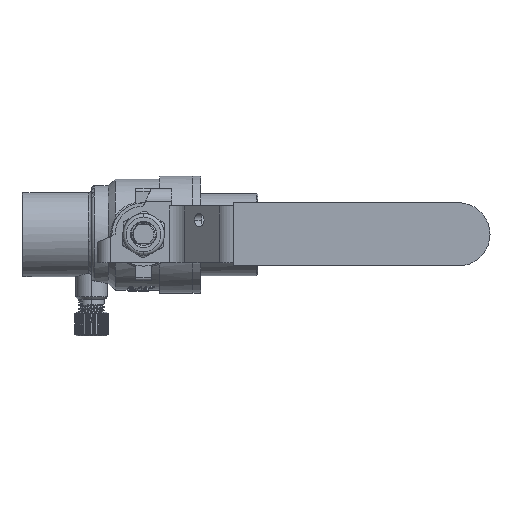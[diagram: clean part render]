
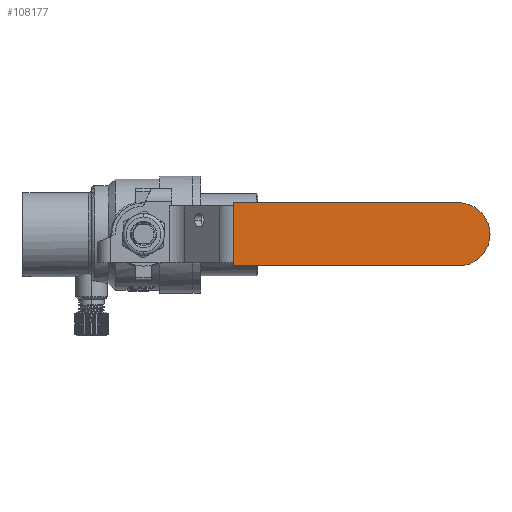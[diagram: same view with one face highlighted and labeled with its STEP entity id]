
A CAD part, top view. The second image highlights one B-rep face of the part: STEP entity #108177.
In plain terms, the highlighted planar face has unit normal (0, 0, 1).
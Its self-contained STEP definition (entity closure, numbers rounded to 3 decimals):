
#105614 = PLANE('',#105615);
#105615 = AXIS2_PLACEMENT_3D('',#105616,#105617,#105618);
#105616 = CARTESIAN_POINT('',(28.314,-21.15,65.359));
#105617 = DIRECTION('',(1.,0.,0.));
#105618 = DIRECTION('',(0.,1.,0.));
#107947 = VERTEX_POINT('',#107948);
#107948 = CARTESIAN_POINT('',(28.314,-1.15,65.359));
#107964 = PLANE('',#107965);
#107965 = AXIS2_PLACEMENT_3D('',#107966,#107967,#107968);
#107966 = CARTESIAN_POINT('',(0.,-1.15,46.359));
#107967 = DIRECTION('',(0.,-1.,0.));
#107968 = DIRECTION('',(1.,0.,0.));
#108005 = VERTEX_POINT('',#108006);
#108006 = CARTESIAN_POINT('',(28.314,-21.15,65.359));
#108020 = PLANE('',#108021);
#108021 = AXIS2_PLACEMENT_3D('',#108022,#108023,#108024);
#108022 = CARTESIAN_POINT('',(0.,-21.15,46.359));
#108023 = DIRECTION('',(0.,-1.,0.));
#108024 = DIRECTION('',(1.,0.,0.));
#108032 = EDGE_CURVE('',#108005,#107947,#108033,.T.);
#108033 = SURFACE_CURVE('',#108034,(#108038,#108045),.PCURVE_S1.);
#108034 = LINE('',#108035,#108036);
#108035 = CARTESIAN_POINT('',(28.314,-21.15,65.359));
#108036 = VECTOR('',#108037,1.);
#108037 = DIRECTION('',(0.,1.,0.));
#108038 = PCURVE('',#105614,#108039);
#108039 = DEFINITIONAL_REPRESENTATION('',(#108040),#108044);
#108040 = LINE('',#108041,#108042);
#108041 = CARTESIAN_POINT('',(0.,0.));
#108042 = VECTOR('',#108043,1.);
#108043 = DIRECTION('',(1.,0.));
#108044 = ( GEOMETRIC_REPRESENTATION_CONTEXT(2) 
PARAMETRIC_REPRESENTATION_CONTEXT() REPRESENTATION_CONTEXT('2D SPACE',''
  ) );
#108045 = PCURVE('',#108046,#108051);
#108046 = PLANE('',#108047);
#108047 = AXIS2_PLACEMENT_3D('',#108048,#108049,#108050);
#108048 = CARTESIAN_POINT('',(28.314,-21.15,65.359));
#108049 = DIRECTION('',(0.,0.,-1.));
#108050 = DIRECTION('',(0.,1.,0.));
#108051 = DEFINITIONAL_REPRESENTATION('',(#108052),#108056);
#108052 = LINE('',#108053,#108054);
#108053 = CARTESIAN_POINT('',(0.,0.));
#108054 = VECTOR('',#108055,1.);
#108055 = DIRECTION('',(1.,0.));
#108056 = ( GEOMETRIC_REPRESENTATION_CONTEXT(2) 
PARAMETRIC_REPRESENTATION_CONTEXT() REPRESENTATION_CONTEXT('2D SPACE',''
  ) );
#108111 = CYLINDRICAL_SURFACE('',#108112,10.);
#108112 = AXIS2_PLACEMENT_3D('',#108113,#108114,#108115);
#108113 = CARTESIAN_POINT('',(99.5,-11.15,65.359));
#108114 = DIRECTION('',(0.,0.,1.));
#108115 = DIRECTION('',(0.,-1.,0.));
#108144 = CYLINDRICAL_SURFACE('',#108145,10.);
#108145 = AXIS2_PLACEMENT_3D('',#108146,#108147,#108148);
#108146 = CARTESIAN_POINT('',(99.5,-11.15,46.359));
#108147 = DIRECTION('',(0.,0.,-1.));
#108148 = DIRECTION('',(0.,1.,0.));
#108177 = ADVANCED_FACE('',(#108178),#108046,.F.);
#108178 = FACE_BOUND('',#108179,.T.);
#108179 = EDGE_LOOP('',(#108180,#108210,#108238,#108259,#108260));
#108180 = ORIENTED_EDGE('',*,*,#108181,.T.);
#108181 = EDGE_CURVE('',#108182,#108184,#108186,.T.);
#108182 = VERTEX_POINT('',#108183);
#108183 = CARTESIAN_POINT('',(99.5,-21.15,65.359));
#108184 = VERTEX_POINT('',#108185);
#108185 = CARTESIAN_POINT('',(109.5,-11.15,65.359));
#108186 = SURFACE_CURVE('',#108187,(#108192,#108203),.PCURVE_S1.);
#108187 = CIRCLE('',#108188,10.);
#108188 = AXIS2_PLACEMENT_3D('',#108189,#108190,#108191);
#108189 = CARTESIAN_POINT('',(99.5,-11.15,65.359));
#108190 = DIRECTION('',(0.,0.,1.));
#108191 = DIRECTION('',(0.,1.,0.));
#108192 = PCURVE('',#108046,#108193);
#108193 = DEFINITIONAL_REPRESENTATION('',(#108194),#108202);
#108194 = ( BOUNDED_CURVE() B_SPLINE_CURVE(2,(#108195,#108196,#108197,
    #108198,#108199,#108200,#108201),.UNSPECIFIED.,.T.,.F.) 
B_SPLINE_CURVE_WITH_KNOTS((1,2,2,2,2,1),(-2.094,0.,
    2.094,4.189,6.283,8.378),
.UNSPECIFIED.) CURVE() GEOMETRIC_REPRESENTATION_ITEM() 
RATIONAL_B_SPLINE_CURVE((1.,0.5,1.,0.5,1.,0.5,1.)) REPRESENTATION_ITEM(
  '') );
#108195 = CARTESIAN_POINT('',(20.,71.186));
#108196 = CARTESIAN_POINT('',(20.,53.866));
#108197 = CARTESIAN_POINT('',(5.,62.526));
#108198 = CARTESIAN_POINT('',(-10.,71.186));
#108199 = CARTESIAN_POINT('',(5.,79.847));
#108200 = CARTESIAN_POINT('',(20.,88.507));
#108201 = CARTESIAN_POINT('',(20.,71.186));
#108202 = ( GEOMETRIC_REPRESENTATION_CONTEXT(2) 
PARAMETRIC_REPRESENTATION_CONTEXT() REPRESENTATION_CONTEXT('2D SPACE',''
  ) );
#108203 = PCURVE('',#108144,#108204);
#108204 = DEFINITIONAL_REPRESENTATION('',(#108205),#108209);
#108205 = LINE('',#108206,#108207);
#108206 = CARTESIAN_POINT('',(6.283,-19.));
#108207 = VECTOR('',#108208,1.);
#108208 = DIRECTION('',(-1.,0.));
#108209 = ( GEOMETRIC_REPRESENTATION_CONTEXT(2) 
PARAMETRIC_REPRESENTATION_CONTEXT() REPRESENTATION_CONTEXT('2D SPACE',''
  ) );
#108210 = ORIENTED_EDGE('',*,*,#108211,.T.);
#108211 = EDGE_CURVE('',#108184,#108212,#108214,.T.);
#108212 = VERTEX_POINT('',#108213);
#108213 = CARTESIAN_POINT('',(99.5,-1.15,65.359));
#108214 = SURFACE_CURVE('',#108215,(#108220,#108231),.PCURVE_S1.);
#108215 = CIRCLE('',#108216,10.);
#108216 = AXIS2_PLACEMENT_3D('',#108217,#108218,#108219);
#108217 = CARTESIAN_POINT('',(99.5,-11.15,65.359));
#108218 = DIRECTION('',(0.,0.,1.));
#108219 = DIRECTION('',(0.,1.,0.));
#108220 = PCURVE('',#108046,#108221);
#108221 = DEFINITIONAL_REPRESENTATION('',(#108222),#108230);
#108222 = ( BOUNDED_CURVE() B_SPLINE_CURVE(2,(#108223,#108224,#108225,
    #108226,#108227,#108228,#108229),.UNSPECIFIED.,.T.,.F.) 
B_SPLINE_CURVE_WITH_KNOTS((1,2,2,2,2,1),(-2.094,0.,
    2.094,4.189,6.283,8.378),
.UNSPECIFIED.) CURVE() GEOMETRIC_REPRESENTATION_ITEM() 
RATIONAL_B_SPLINE_CURVE((1.,0.5,1.,0.5,1.,0.5,1.)) REPRESENTATION_ITEM(
  '') );
#108223 = CARTESIAN_POINT('',(20.,71.186));
#108224 = CARTESIAN_POINT('',(20.,53.866));
#108225 = CARTESIAN_POINT('',(5.,62.526));
#108226 = CARTESIAN_POINT('',(-10.,71.186));
#108227 = CARTESIAN_POINT('',(5.,79.847));
#108228 = CARTESIAN_POINT('',(20.,88.507));
#108229 = CARTESIAN_POINT('',(20.,71.186));
#108230 = ( GEOMETRIC_REPRESENTATION_CONTEXT(2) 
PARAMETRIC_REPRESENTATION_CONTEXT() REPRESENTATION_CONTEXT('2D SPACE',''
  ) );
#108231 = PCURVE('',#108111,#108232);
#108232 = DEFINITIONAL_REPRESENTATION('',(#108233),#108237);
#108233 = LINE('',#108234,#108235);
#108234 = CARTESIAN_POINT('',(-3.142,0.));
#108235 = VECTOR('',#108236,1.);
#108236 = DIRECTION('',(1.,0.));
#108237 = ( GEOMETRIC_REPRESENTATION_CONTEXT(2) 
PARAMETRIC_REPRESENTATION_CONTEXT() REPRESENTATION_CONTEXT('2D SPACE',''
  ) );
#108238 = ORIENTED_EDGE('',*,*,#108239,.T.);
#108239 = EDGE_CURVE('',#108212,#107947,#108240,.T.);
#108240 = SURFACE_CURVE('',#108241,(#108245,#108252),.PCURVE_S1.);
#108241 = LINE('',#108242,#108243);
#108242 = CARTESIAN_POINT('',(28.314,-1.15,65.359));
#108243 = VECTOR('',#108244,1.);
#108244 = DIRECTION('',(-1.,0.,0.));
#108245 = PCURVE('',#108046,#108246);
#108246 = DEFINITIONAL_REPRESENTATION('',(#108247),#108251);
#108247 = LINE('',#108248,#108249);
#108248 = CARTESIAN_POINT('',(20.,0.));
#108249 = VECTOR('',#108250,1.);
#108250 = DIRECTION('',(0.,-1.));
#108251 = ( GEOMETRIC_REPRESENTATION_CONTEXT(2) 
PARAMETRIC_REPRESENTATION_CONTEXT() REPRESENTATION_CONTEXT('2D SPACE',''
  ) );
#108252 = PCURVE('',#107964,#108253);
#108253 = DEFINITIONAL_REPRESENTATION('',(#108254),#108258);
#108254 = LINE('',#108255,#108256);
#108255 = CARTESIAN_POINT('',(28.314,19.));
#108256 = VECTOR('',#108257,1.);
#108257 = DIRECTION('',(-1.,0.));
#108258 = ( GEOMETRIC_REPRESENTATION_CONTEXT(2) 
PARAMETRIC_REPRESENTATION_CONTEXT() REPRESENTATION_CONTEXT('2D SPACE',''
  ) );
#108259 = ORIENTED_EDGE('',*,*,#108032,.F.);
#108260 = ORIENTED_EDGE('',*,*,#108261,.F.);
#108261 = EDGE_CURVE('',#108182,#108005,#108262,.T.);
#108262 = SURFACE_CURVE('',#108263,(#108267,#108274),.PCURVE_S1.);
#108263 = LINE('',#108264,#108265);
#108264 = CARTESIAN_POINT('',(28.314,-21.15,65.359));
#108265 = VECTOR('',#108266,1.);
#108266 = DIRECTION('',(-1.,0.,0.));
#108267 = PCURVE('',#108046,#108268);
#108268 = DEFINITIONAL_REPRESENTATION('',(#108269),#108273);
#108269 = LINE('',#108270,#108271);
#108270 = CARTESIAN_POINT('',(0.,0.));
#108271 = VECTOR('',#108272,1.);
#108272 = DIRECTION('',(0.,-1.));
#108273 = ( GEOMETRIC_REPRESENTATION_CONTEXT(2) 
PARAMETRIC_REPRESENTATION_CONTEXT() REPRESENTATION_CONTEXT('2D SPACE',''
  ) );
#108274 = PCURVE('',#108020,#108275);
#108275 = DEFINITIONAL_REPRESENTATION('',(#108276),#108280);
#108276 = LINE('',#108277,#108278);
#108277 = CARTESIAN_POINT('',(28.314,19.));
#108278 = VECTOR('',#108279,1.);
#108279 = DIRECTION('',(-1.,0.));
#108280 = ( GEOMETRIC_REPRESENTATION_CONTEXT(2) 
PARAMETRIC_REPRESENTATION_CONTEXT() REPRESENTATION_CONTEXT('2D SPACE',''
  ) );
